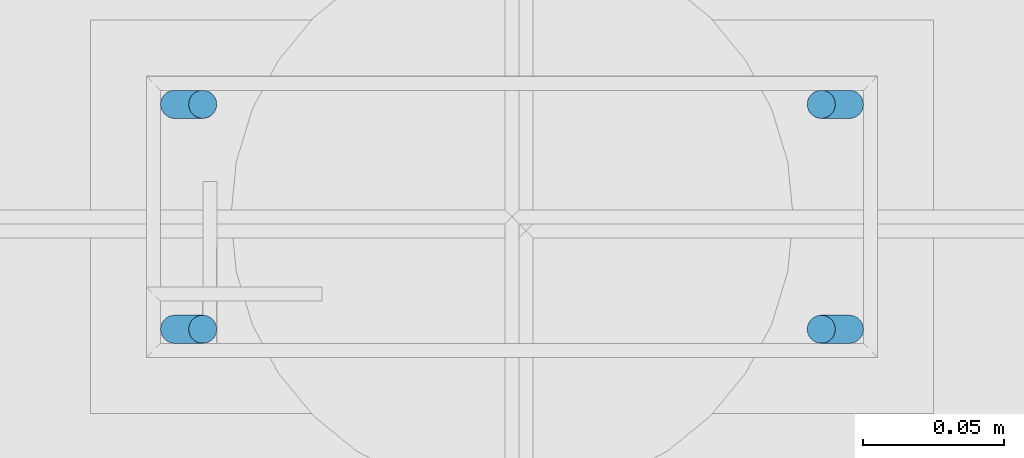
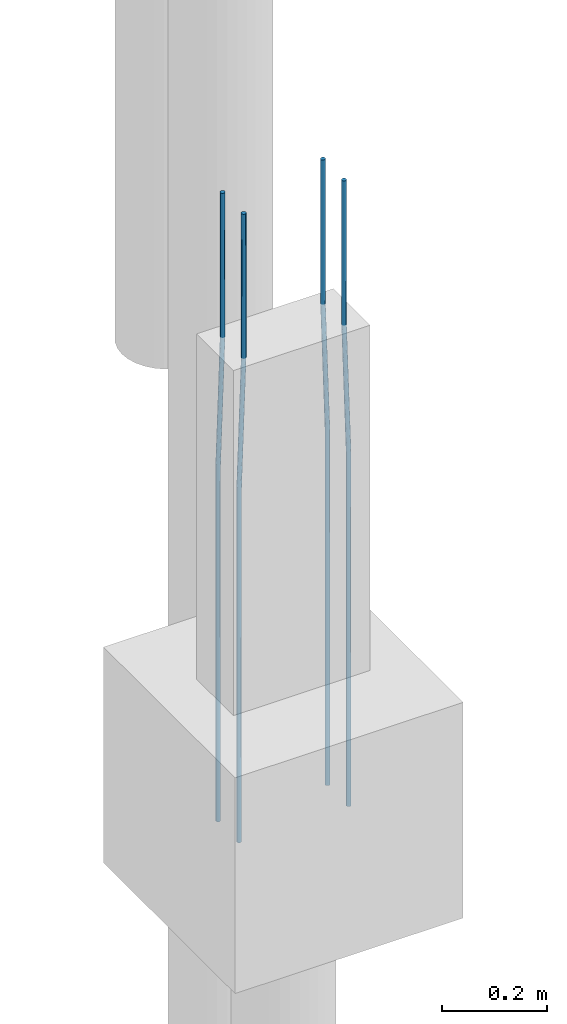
# One storey, part 20 of 119: 4 reinforcing bars.
"""IFC4 building model written with IfcOpenShell, lengths in centimetres."""

import ifcopenshell
import ifcopenshell.guid

model = None  # the IFC model being written
_history = None  # IfcOwnerHistory: only IFC2X3 demands one
_inside = {}  # id of a spatial element -> (the spatial element, [elements in it])
_under = {}  # id of a project, library or spatial element -> (it, [spatial elements below it])
_declared = {}  # id of a project -> (the project, [libraries it declares])
_typed = {}  # id of a type object -> (the type object, [elements of that type])
_made_of = {}  # id of a material, layer set ... -> (it, [elements and type objects made of it])


def new_model(schema):
    """Start an empty IFC model of exactly this schema.

    Asked for "IFC4X3", IfcOpenShell would pick the latest addendum, in which some entities
    have other attributes; the version numbers below select the first issue.
    IFC2X3 requires an IfcOwnerHistory on every rooted entity: one is made here for all.
    """
    global model, _history
    if schema == "IFC4X3":
        model = ifcopenshell.file(schema_version=(4, 3, 0, 0))
    else:
        model = ifcopenshell.file(schema=schema)
    _inside.clear()
    _under.clear()
    _declared.clear()
    _typed.clear()
    _made_of.clear()
    _history = None
    if model.schema == "IFC2X3":
        org = make("IfcOrganization", Name="unknown")
        user = make(
            "IfcPersonAndOrganization",
            ThePerson=make("IfcPerson", FamilyName="unknown"),
            TheOrganization=org,
        )
        app = make(
            "IfcApplication",
            ApplicationDeveloper=org,
            Version="unknown",
            ApplicationFullName="unknown",
            ApplicationIdentifier="unknown",
        )
        _history = make(
            "IfcOwnerHistory",
            OwningUser=user,
            OwningApplication=app,
            ChangeAction="ADDED",
            CreationDate=0,
        )
    return model


def make(cls, **values):
    """One entity of the class cls with the attributes given. An attribute that is None is left unset."""
    return model.create_entity(
        cls, **{name: value for name, value in values.items() if value is not None}
    )


def entity(cls, *values):
    """Any entity or typed value of the class cls, its attributes in the order of the schema. None: left unset."""
    e = model.create_entity(cls)
    for i, value in enumerate(values):
        if value is not None:
            e[i] = value
    return e


def rooted(cls, **values):
    """An entity with a GlobalId (a new one), such as an element, a storey or a relation."""
    return make(cls, GlobalId=ifcopenshell.guid.new(), OwnerHistory=_history, **values)


def si_unit(unit_type, name, prefix=None):
    """IfcSIUnit, for example si_unit("LENGTHUNIT", "METRE", prefix="MILLI")."""
    return make("IfcSIUnit", UnitType=unit_type, Prefix=prefix, Name=name)


def derived_unit(unit_type, elements):
    """IfcDerivedUnit: a product of units, each with its exponent."""
    return make(
        "IfcDerivedUnit",
        Elements=[
            make("IfcDerivedUnitElement", Unit=unit, Exponent=power)
            for unit, power in elements
        ],
        UnitType=unit_type,
    )


def assignment(units):
    """IfcUnitAssignment: the units of a project."""
    return None if units is None else make("IfcUnitAssignment", Units=units)


def point(xyz):
    """IfcCartesianPoint."""
    return None if xyz is None else make("IfcCartesianPoint", Coordinates=xyz)


def direction(xyz):
    """IfcDirection."""
    return None if xyz is None else make("IfcDirection", DirectionRatios=xyz)


def frame(location, z_axis=None, x_axis=None):
    """IfcAxis2Placement3D, a coordinate frame: its origin and axes. An axis left out is left unset."""
    return make(
        "IfcAxis2Placement3D",
        Location=point(location),
        Axis=direction(z_axis),
        RefDirection=direction(x_axis),
    )


def origin_with_axes():
    """The frame at (0, 0, 0) with the z axis (0, 0, 1) and the x axis (1, 0, 0) written out."""
    return frame((0.0, 0.0, 0.0), z_axis=(0.0, 0.0, 1.0), x_axis=(1.0, 0.0, 0.0))


def place(relative_to, where):
    """IfcLocalPlacement: puts the frame where relative to a parent placement (None: the world)."""
    return make(
        "IfcLocalPlacement", PlacementRelTo=relative_to, RelativePlacement=where
    )


def context(
    kind, dimensions, precision=None, world=None, true_north=None, identifier=None
):
    """IfcGeometricRepresentationContext, for example the 3D "Model" context."""
    return make(
        "IfcGeometricRepresentationContext",
        ContextIdentifier=identifier,
        ContextType=kind,
        CoordinateSpaceDimension=dimensions,
        Precision=precision,
        WorldCoordinateSystem=world,
        TrueNorth=true_north,
    )


def project(units=None, contexts=None):
    """IfcProject with its units and contexts."""
    return rooted(
        "IfcProject",
        Name="project",
        RepresentationContexts=contexts,
        UnitsInContext=assignment(units),
    )


def spatial(cls, under=None, at=None, **own):
    """A site, building, storey or space (cls), placed at a placement, below another one or the project."""
    s = rooted(cls, ObjectPlacement=at, **own)
    if under is not None:
        _under.setdefault(under.id(), (under, []))[1].append(s)
    return s


def shape(context_of_items, identifier, shape_type, items):
    """IfcShapeRepresentation: the items that make up one representation, for example the "Body"."""
    return make(
        "IfcShapeRepresentation",
        ContextOfItems=context_of_items,
        RepresentationIdentifier=identifier,
        RepresentationType=shape_type,
        Items=items,
    )


def made_of(thing, what):
    """Note that an element or type object is made of a material, layer set ...; save() writes the relation."""
    if what is not None:
        _made_of.setdefault(what.id(), (what, []))[1].append(thing)
    return thing


def element(
    cls,
    number,
    at=None,
    inside=None,
    cuts=None,
    type_object=None,
    material=None,
    context=None,
    identifier="Body",
    shape_type=None,
    held_by="IfcProductDefinitionShape",
    body=None,
    shapes=None,
    **own,
):
    """One element of the class cls, such as IfcWall. Its Tag is "e" and its number.

    at: its placement. inside: the storey or other place that contains it. cuts: it is an
    opening in that element (IfcRelVoidsElement). A single representation is given by context,
    identifier, shape_type and body (its items); several are given by shapes. held_by: the class
    of the entity that holds the representations. save() writes the other relations.
    """
    e = rooted(cls, Tag="e%d" % number, ObjectPlacement=at, **own)
    if body is not None:
        shapes = [shape(context, identifier, shape_type, body)]
    if shapes is not None:
        e.Representation = make(held_by, Representations=shapes)
    if inside is not None:
        _inside.setdefault(inside.id(), (inside, []))[1].append(e)
    if cuts is not None:
        rooted(
            "IfcRelVoidsElement", RelatingBuildingElement=cuts, RelatedOpeningElement=e
        )
    if type_object is not None:
        _typed.setdefault(type_object.id(), (type_object, []))[1].append(e)
    return made_of(e, material)


def aggregate(whole, parts):
    """IfcRelAggregates: a whole, such as a stair, and the parts it consists of."""
    return rooted("IfcRelAggregates", RelatingObject=whole, RelatedObjects=parts)


def save(model, path):
    """Write the relations noted so far, then the file.

    IfcRelAggregates (storeys below a building ...), IfcRelContainedInSpatialStructure (elements
    in a storey), IfcRelDefinesByType, IfcRelAssociatesMaterial and IfcRelDeclares: one each for
    every whole, place, type object, material and project.
    """
    for whole, parts in _under.values():
        aggregate(whole, parts)
    for where, things in _inside.values():
        rooted(
            "IfcRelContainedInSpatialStructure",
            RelatedElements=things,
            RelatingStructure=where,
        )
    for kind, things in _typed.values():
        rooted("IfcRelDefinesByType", RelatedObjects=things, RelatingType=kind)
    for what, things in _made_of.values():
        rooted("IfcRelAssociatesMaterial", RelatedObjects=things, RelatingMaterial=what)
    for by, libraries in _declared.values():
        rooted("IfcRelDeclares", RelatingContext=by, RelatedDefinitions=libraries)
    model.write(path)


model = new_model("IFC4")

# Units and contexts
model_context = context("Model", 3, precision=1e-05, world=origin_with_axes(), identifier="Body")
ifc_project = project(units=[si_unit("LENGTHUNIT", "METRE", prefix="CENTI"), si_unit("VOLUMEUNIT", "CUBIC_METRE"), si_unit("AREAUNIT", "SQUARE_METRE"), si_unit("POWERUNIT", "WATT"), si_unit("LUMINOUSFLUXUNIT", "LUMEN"), si_unit("ELECTRICCURRENTUNIT", "AMPERE"), si_unit("PRESSUREUNIT", "PASCAL", prefix="KILO"), si_unit("MASSUNIT", "GRAM", prefix="KILO"), si_unit("PLANEANGLEUNIT", "RADIAN"), derived_unit("VOLUMETRICFLOWRATEUNIT", [(si_unit("LENGTHUNIT", "METRE"), 3), (si_unit("TIMEUNIT", "SECOND"), -1)])], contexts=[model_context])

# Site, building, storey
site_placement = place(None, frame((-4000.0, 0.0, 0.0), z_axis=(0.0, 0.0, 1.0), x_axis=(1.0, 0.0, 0.0)))
site = spatial("IfcSite", under=ifc_project, at=site_placement, Name="PADRÃO")
building_placement = place(site_placement, frame((0.0, 0.0, -14.0)))
building = spatial("IfcBuilding", under=site, at=building_placement, Name="CRECHE PRÉ-ESCOLA TIPO 2")
storey_placement = place(building_placement, origin_with_axes())
storey = spatial("IfcBuildingStorey", under=building, at=storey_placement, Name="FUNDAÇÃO", CompositionType="ELEMENT", Elevation=-14.0)

# Reinforcing bars
reinforcing_bar_1_placement = place(storey_placement, frame((2954.74, 1023.52, 33.3573001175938), z_axis=(0.0, 0.0, 1.0), x_axis=(1.0, 0.0, 0.0)))
element("IfcReinforcingBar", 1, at=reinforcing_bar_1_placement, inside=storey, Name="P123 - Longitudinal", BarLength=0.0, CrossSectionArea=7.853981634e-05, NominalDiameter=1.0, PredefinedType="MAIN", context=model_context, shape_type="AdvancedSweptSolid", body=[
    entity("IfcSweptDiskSolid", entity("IfcCompositeCurve", [entity("IfcCompositeCurveSegment", "CONTINUOUS", True, entity("IfcPolyline", [entity("IfcCartesianPoint", [0.5, 0.0, -145.357300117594]), entity("IfcCartesianPoint", [0.5, 0.0, -63.3573001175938])])), entity("IfcCompositeCurveSegment", "CONTINUOUS", True, entity("IfcPolyline", [entity("IfcCartesianPoint", [0.5, 0.0, -63.3573001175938]), entity("IfcCartesianPoint", [-0.5, 0.0, -33.3573001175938])])), entity("IfcCompositeCurveSegment", "CONTINUOUS", True, entity("IfcPolyline", [entity("IfcCartesianPoint", [-0.5, 0.0, -33.3573001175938]), entity("IfcCartesianPoint", [-0.5, 0.0, 0.0])]))], False), 0.5),
])
for number, where, z_axis, x_axis, name in (
    (2, (2931.74, 1023.52, 33.3573001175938), (0.0, 0.0, 1.0), (1.0, 0.0, 0.0), "P123 - Longitudinal"),
    (3, (2931.74, 1031.52, 33.3573001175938), (0.0, 0.0, 1.0), (1.0, 0.0, 0.0), "P123 - Longitudinal"),
):
    element("IfcReinforcingBar", number, at=place(storey_placement, frame(where, z_axis=z_axis, x_axis=x_axis)), inside=storey, Name=name, BarLength=0.0, CrossSectionArea=7.853981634e-05, NominalDiameter=1.0, PredefinedType="MAIN", context=model_context, shape_type="AdvancedSweptSolid", body=[
        entity("IfcSweptDiskSolid", entity("IfcCompositeCurve", [entity("IfcCompositeCurveSegment", "CONTINUOUS", True, entity("IfcPolyline", [entity("IfcCartesianPoint", [-0.5, 0.0, -145.357300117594]), entity("IfcCartesianPoint", [-0.5, 0.0, -63.3573001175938])])), entity("IfcCompositeCurveSegment", "CONTINUOUS", True, entity("IfcPolyline", [entity("IfcCartesianPoint", [-0.5, 0.0, -63.3573001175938]), entity("IfcCartesianPoint", [0.5, 0.0, -33.3573001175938])])), entity("IfcCompositeCurveSegment", "CONTINUOUS", True, entity("IfcPolyline", [entity("IfcCartesianPoint", [0.5, 0.0, -33.3573001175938]), entity("IfcCartesianPoint", [0.5, 0.0, 0.0])]))], False), 0.5),
    ])
reinforcing_bar_2_placement = place(storey_placement, frame((2954.74, 1031.52, 33.3573001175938), z_axis=(0.0, 0.0, 1.0), x_axis=(1.0, 0.0, 0.0)))
element("IfcReinforcingBar", 4, at=reinforcing_bar_2_placement, inside=storey, Name="P123 - Longitudinal", BarLength=0.0, CrossSectionArea=7.853981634e-05, NominalDiameter=1.0, PredefinedType="MAIN", context=model_context, shape_type="AdvancedSweptSolid", body=[
    entity("IfcSweptDiskSolid", entity("IfcCompositeCurve", [entity("IfcCompositeCurveSegment", "CONTINUOUS", True, entity("IfcPolyline", [entity("IfcCartesianPoint", [0.5, 0.0, -145.357300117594]), entity("IfcCartesianPoint", [0.5, 0.0, -63.3573001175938])])), entity("IfcCompositeCurveSegment", "CONTINUOUS", True, entity("IfcPolyline", [entity("IfcCartesianPoint", [0.5, 0.0, -63.3573001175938]), entity("IfcCartesianPoint", [-0.5, 0.0, -33.3573001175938])])), entity("IfcCompositeCurveSegment", "CONTINUOUS", True, entity("IfcPolyline", [entity("IfcCartesianPoint", [-0.5, 0.0, -33.3573001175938]), entity("IfcCartesianPoint", [-0.5, 0.0, 0.0])]))], False), 0.5),
])

save(model, "model.ifc")
